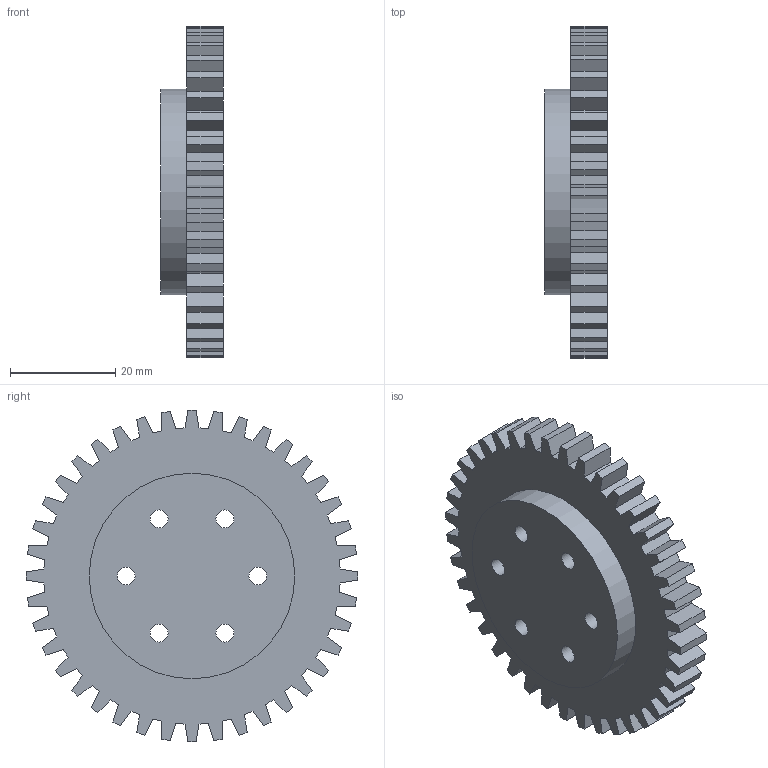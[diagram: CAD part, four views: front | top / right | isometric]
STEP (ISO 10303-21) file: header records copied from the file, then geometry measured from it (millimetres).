
FILE_DESCRIPTION(('Open CASCADE Model'),'2;1');
FILE_NAME('Open CASCADE Shape Model','2026-10-18T22:58:50',('Author'),( 'Open CASCADE'),'Open CASCADE STEP processor 7.9','Open CASCADE 7.9' ,'Unknown');
FILE_SCHEMA(('AUTOMOTIVE_DESIGN { 1 0 10303 214 1 1 1 1 }'));
Length unit declared in the file: millimetre
Products named in the file (1): Open CASCADE STEP translator 7.9 46
Bounding box: 11.85 x 62.98 x 62.98 mm (x, y, z)
Volume: 23973.8 mm3; surface area: 9782.3 mm2
Topology: 1 solids, 1 shells, 182 faces, 519 edges, 346 vertices
Faces by surface type: plane 169, cylinder 13
Full cylindrical faces by diameter (mm): 3.4 x6, 6.5 x6, 39 x1
Entity records: 12646 total; most frequent: CARTESIAN_POINT 2158, DIRECTION 1937, LINE 1505, VECTOR 1505, ORIENTED_EDGE 1038, PCURVE 1038, DEFINITIONAL_REPRESENTATION 1038, EDGE_CURVE 519
